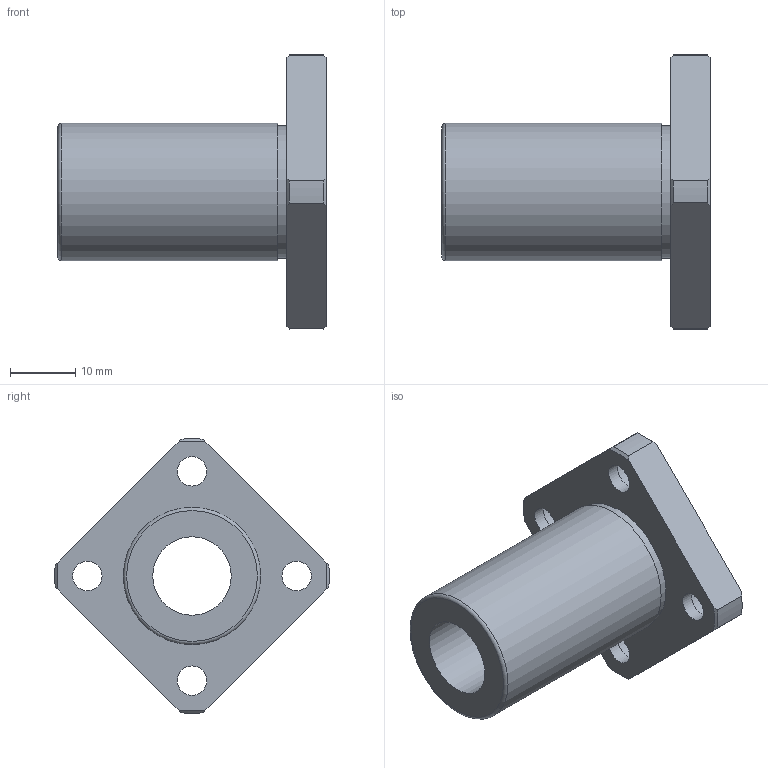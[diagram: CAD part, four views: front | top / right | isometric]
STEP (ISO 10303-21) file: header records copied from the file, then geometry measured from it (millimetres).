
FILE_DESCRIPTION(('STEP AP203'),'1');
FILE_NAME('//192.168.1.1/share/s-4 技術開発/s-4-4_CAD/s-4-4-3_見直し済み/002 修正済み/NFES-VM(済)/NFES-VM_TOP/NFES-12VM.step','2022-03-08T01:17:39',(' '),(' '),'Spatial InterOp 3D',' ',' ');
FILE_SCHEMA(('CONFIG_CONTROL_DESIGN'));
Length unit declared in the file: millimetre
Products named in the file (1): 1
Bounding box: 41 x 41.98 x 41.98 mm (x, y, z)
Volume: 12681.3 mm3; surface area: 6776.1 mm2
Topology: 1 solids, 1 shells, 36 faces, 91 edges, 63 vertices
Faces by surface type: cylinder 15, plane 12, cone 8, torus 1
Full cylindrical faces by diameter (mm): 4.5 x4, 7.5 x4, 12 x1, 20.3 x1, 21 x1
Entity records: 1026 total; most frequent: CARTESIAN_POINT 195, DIRECTION 168, ORIENTED_EDGE 142, AXIS2_PLACEMENT_3D 76, EDGE_CURVE 71, EDGE_LOOP 64, VERTEX_POINT 55, FACE_OUTER_BOUND 48
